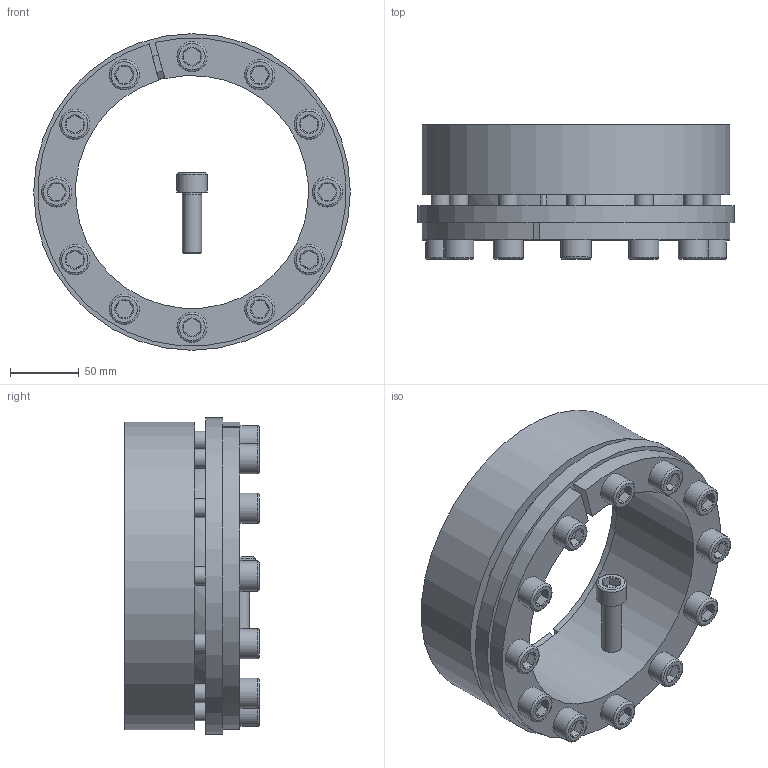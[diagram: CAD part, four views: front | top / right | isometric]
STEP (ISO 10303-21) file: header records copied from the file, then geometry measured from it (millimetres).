
FILE_DESCRIPTION( ( 'Unknown' ), '1' );
FILE_NAME( 'C:/Dokumente und Einstellungen/Sven/Desktop/homepage/cad - homepage/KBS71/KBS 71 - 170 x 225.stp', 'Unknown', ( 'Unknown' ), ( 'Unknown' ), 'XStep 1.0', 'Unknown', ' ' );
FILE_SCHEMA( ( 'automotive_design' ) );
Length unit declared in the file: millimetre
Products named in the file (3): Assem1; KBS 71 - 170 x 225; ISO EN DIN 4762 M14x45
Bounding box: 231 x 98 x 231 mm (x, y, z)
Volume: 2547440.7 mm3; surface area: 463044.2 mm2
Topology: 15 solids, 15 shells, 421 faces, 903 edges, 538 vertices
Faces by surface type: plane 188, cylinder 108, cone 99, torus 26
Full cylindrical faces by diameter (mm): 12 x13, 14 x74, 22 x13, 231 x2
Entity records: 2530 total; most frequent: CARTESIAN_POINT 425, DIRECTION 416, ORIENTED_EDGE 312, AXIS2_PLACEMENT_3D 183, EDGE_CURVE 156, EDGE_LOOP 150, VERTEX_POINT 112, FACE_OUTER_BOUND 104
